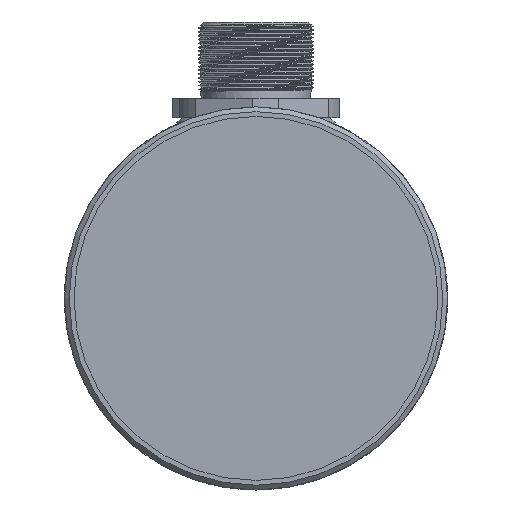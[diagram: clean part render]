
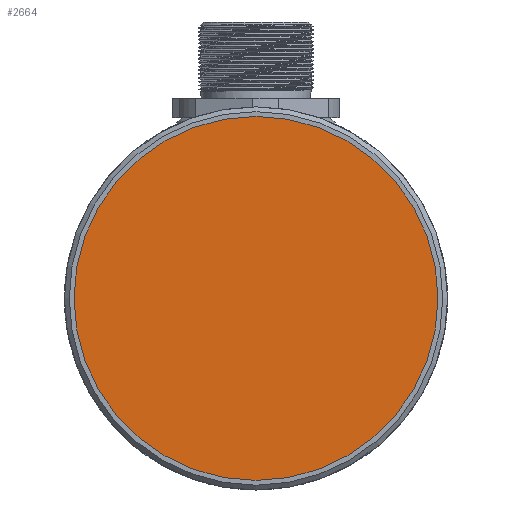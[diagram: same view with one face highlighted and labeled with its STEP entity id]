
A CAD part, left-side view. The second image highlights one B-rep face of the part: STEP entity #2664.
In plain terms, the highlighted planar face has unit normal (-1, 0, 0).
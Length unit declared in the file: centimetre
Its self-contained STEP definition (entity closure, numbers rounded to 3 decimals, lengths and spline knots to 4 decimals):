
#797=CIRCLE('',#2837,1.9);
#895=VERTEX_POINT('',#3644);
#1331=EDGE_CURVE('',#895,#895,#797,.T.);
#1674=ORIENTED_EDGE('',*,*,#1331,.T.);
#2264=EDGE_LOOP('',(#1674));
#2467=FACE_BOUND('',#2264,.T.);
#2664=ADVANCED_FACE('',(#2467),#14800,.T.);
#2837=AXIS2_PLACEMENT_3D('',#3643,#3067,#3068);
#2839=AXIS2_PLACEMENT_3D('',#3647,#3071,$);
#3067=DIRECTION('',(-1.,0.,0.));
#3068=DIRECTION('',(0.,0.,1.9));
#3071=DIRECTION('',(-1.,0.,0.));
#3643=CARTESIAN_POINT('',(0.1,0.,0.));
#3644=CARTESIAN_POINT('',(0.1,0.,1.9));
#3647=CARTESIAN_POINT('',(0.1,0.,0.));
#14800=PLANE('',#2839);
